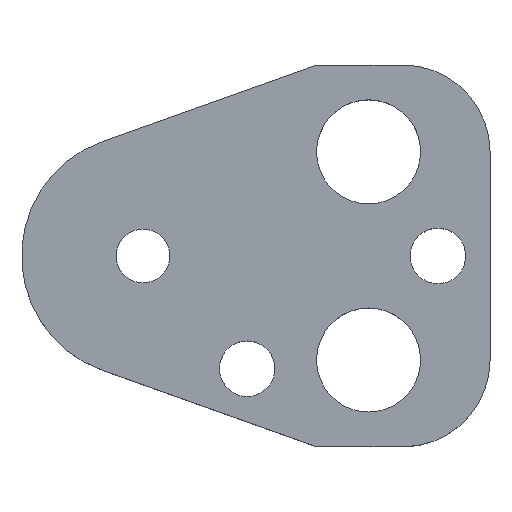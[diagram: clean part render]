
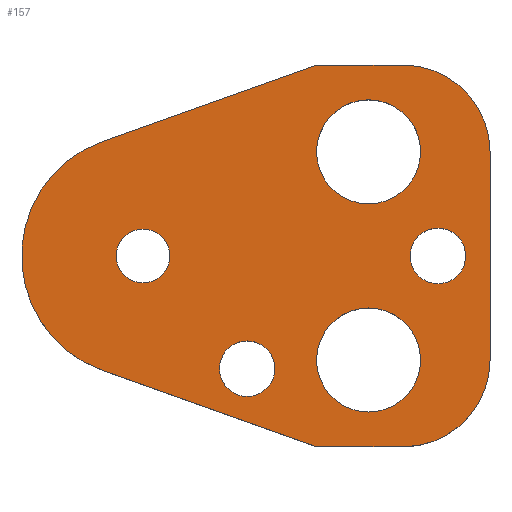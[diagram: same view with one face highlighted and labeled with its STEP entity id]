
A CAD part, top view. The second image highlights one B-rep face of the part: STEP entity #157.
In plain terms, the highlighted planar face has unit normal (0, 0, 1).
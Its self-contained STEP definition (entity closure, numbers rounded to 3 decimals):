
#103=FACE_BOUND('',#207,.T.);
#104=FACE_BOUND('',#208,.T.);
#105=FACE_BOUND('',#209,.T.);
#106=FACE_BOUND('',#210,.T.);
#107=FACE_BOUND('',#211,.T.);
#108=FACE_BOUND('',#212,.T.);
#122=CIRCLE('',#480,10.);
#124=CIRCLE('',#484,10.);
#127=CIRCLE('',#490,14.);
#138=CIRCLE('',#503,3.2);
#139=CIRCLE('',#504,3.2);
#140=CIRCLE('',#505,6.);
#141=CIRCLE('',#506,6.);
#142=CIRCLE('',#507,6.);
#143=CIRCLE('',#508,6.);
#144=CIRCLE('',#509,3.2);
#145=CIRCLE('',#510,3.2);
#146=CIRCLE('',#511,3.1);
#147=CIRCLE('',#512,3.1);
#157=ADVANCED_FACE('',(#103,#104,#105,#106,#107,#108),#174,.T.);
#174=PLANE('',#513);
#207=EDGE_LOOP('',(#273,#274,#275,#276,#277,#278,#279,#280));
#208=EDGE_LOOP('',(#281,#282));
#209=EDGE_LOOP('',(#283,#284));
#210=EDGE_LOOP('',(#285,#286));
#211=EDGE_LOOP('',(#287,#288));
#212=EDGE_LOOP('',(#289,#290));
#273=ORIENTED_EDGE('',*,*,#368,.T.);
#274=ORIENTED_EDGE('',*,*,#372,.T.);
#275=ORIENTED_EDGE('',*,*,#375,.T.);
#276=ORIENTED_EDGE('',*,*,#378,.T.);
#277=ORIENTED_EDGE('',*,*,#381,.T.);
#278=ORIENTED_EDGE('',*,*,#384,.T.);
#279=ORIENTED_EDGE('',*,*,#387,.T.);
#280=ORIENTED_EDGE('',*,*,#390,.T.);
#281=ORIENTED_EDGE('',*,*,#401,.T.);
#282=ORIENTED_EDGE('',*,*,#402,.T.);
#283=ORIENTED_EDGE('',*,*,#403,.T.);
#284=ORIENTED_EDGE('',*,*,#404,.T.);
#285=ORIENTED_EDGE('',*,*,#405,.T.);
#286=ORIENTED_EDGE('',*,*,#406,.T.);
#287=ORIENTED_EDGE('',*,*,#407,.T.);
#288=ORIENTED_EDGE('',*,*,#408,.T.);
#289=ORIENTED_EDGE('',*,*,#409,.T.);
#290=ORIENTED_EDGE('',*,*,#410,.T.);
#332=VERTEX_POINT('',#649);
#333=VERTEX_POINT('',#651);
#336=VERTEX_POINT('',#658);
#338=VERTEX_POINT('',#664);
#340=VERTEX_POINT('',#670);
#342=VERTEX_POINT('',#676);
#344=VERTEX_POINT('',#682);
#346=VERTEX_POINT('',#688);
#357=VERTEX_POINT('',#717);
#358=VERTEX_POINT('',#718);
#359=VERTEX_POINT('',#721);
#360=VERTEX_POINT('',#722);
#361=VERTEX_POINT('',#725);
#362=VERTEX_POINT('',#726);
#363=VERTEX_POINT('',#729);
#364=VERTEX_POINT('',#730);
#365=VERTEX_POINT('',#733);
#366=VERTEX_POINT('',#734);
#368=EDGE_CURVE('',#333,#332,#422,.T.);
#372=EDGE_CURVE('',#332,#336,#426,.T.);
#375=EDGE_CURVE('',#336,#338,#122,.T.);
#378=EDGE_CURVE('',#338,#340,#430,.T.);
#381=EDGE_CURVE('',#340,#342,#124,.T.);
#384=EDGE_CURVE('',#342,#344,#434,.T.);
#387=EDGE_CURVE('',#344,#346,#437,.T.);
#390=EDGE_CURVE('',#346,#333,#127,.T.);
#401=EDGE_CURVE('',#357,#358,#138,.T.);
#402=EDGE_CURVE('',#358,#357,#139,.T.);
#403=EDGE_CURVE('',#359,#360,#140,.T.);
#404=EDGE_CURVE('',#360,#359,#141,.T.);
#405=EDGE_CURVE('',#361,#362,#142,.T.);
#406=EDGE_CURVE('',#362,#361,#143,.T.);
#407=EDGE_CURVE('',#363,#364,#144,.T.);
#408=EDGE_CURVE('',#364,#363,#145,.T.);
#409=EDGE_CURVE('',#365,#366,#146,.T.);
#410=EDGE_CURVE('',#366,#365,#147,.T.);
#422=LINE('',#650,#450);
#426=LINE('',#659,#454);
#430=LINE('',#671,#458);
#434=LINE('',#683,#462);
#437=LINE('',#689,#465);
#450=VECTOR('',#527,1.);
#454=VECTOR('',#533,1.);
#458=VECTOR('',#545,1.);
#462=VECTOR('',#557,1.);
#465=VECTOR('',#562,1.);
#480=AXIS2_PLACEMENT_3D('',#665,#538,#539);
#484=AXIS2_PLACEMENT_3D('',#677,#550,#551);
#490=AXIS2_PLACEMENT_3D('',#693,#568,#569);
#503=AXIS2_PLACEMENT_3D('',#716,#594,#595);
#504=AXIS2_PLACEMENT_3D('',#719,#596,#597);
#505=AXIS2_PLACEMENT_3D('',#720,#598,#599);
#506=AXIS2_PLACEMENT_3D('',#723,#600,#601);
#507=AXIS2_PLACEMENT_3D('',#724,#602,#603);
#508=AXIS2_PLACEMENT_3D('',#727,#604,#605);
#509=AXIS2_PLACEMENT_3D('',#728,#606,#607);
#510=AXIS2_PLACEMENT_3D('',#731,#608,#609);
#511=AXIS2_PLACEMENT_3D('',#732,#610,#611);
#512=AXIS2_PLACEMENT_3D('',#735,#612,#613);
#513=AXIS2_PLACEMENT_3D('',#736,#614,#615);
#527=DIRECTION('',(0.942,-0.336,0.));
#533=DIRECTION('',(1.,0.,0.));
#538=DIRECTION('',(0.,0.,1.));
#539=DIRECTION('',(-0.707,0.707,0.));
#545=DIRECTION('',(0.,1.,0.));
#550=DIRECTION('',(0.,0.,1.));
#551=DIRECTION('',(-0.707,-0.707,0.));
#557=DIRECTION('',(-1.,0.,0.));
#562=DIRECTION('',(-0.942,-0.336,0.));
#568=DIRECTION('',(0.,0.,1.));
#569=DIRECTION('',(1.,0.,0.));
#594=DIRECTION('',(0.,0.,-1.));
#595=DIRECTION('',(-1.,0.,0.));
#596=DIRECTION('',(0.,0.,-1.));
#597=DIRECTION('',(1.,0.,0.));
#598=DIRECTION('',(0.,0.,-1.));
#599=DIRECTION('',(-1.,0.,0.));
#600=DIRECTION('',(0.,0.,-1.));
#601=DIRECTION('',(1.,0.,0.));
#602=DIRECTION('',(0.,0.,-1.));
#603=DIRECTION('',(-1.,0.,0.));
#604=DIRECTION('',(0.,0.,-1.));
#605=DIRECTION('',(1.,0.,0.));
#606=DIRECTION('',(0.,0.,-1.));
#607=DIRECTION('',(-1.,0.,0.));
#608=DIRECTION('',(0.,0.,-1.));
#609=DIRECTION('',(1.,0.,0.));
#610=DIRECTION('',(0.,0.,-1.));
#611=DIRECTION('',(-1.,0.,0.));
#612=DIRECTION('',(0.,0.,-1.));
#613=DIRECTION('',(1.,0.,0.));
#614=DIRECTION('',(0.,0.,1.));
#615=DIRECTION('',(0.942,-0.336,0.));
#649=CARTESIAN_POINT('',(20.,-22.,8.));
#650=CARTESIAN_POINT('',(20.,-22.,8.));
#651=CARTESIAN_POINT('',(-4.704,-13.186,8.));
#658=CARTESIAN_POINT('',(30.,-22.,8.));
#659=CARTESIAN_POINT('',(20.,-22.,8.));
#664=CARTESIAN_POINT('',(40.,-12.,8.));
#665=CARTESIAN_POINT('',(30.,-12.,8.));
#670=CARTESIAN_POINT('',(40.,12.,8.));
#671=CARTESIAN_POINT('',(40.,12.,8.));
#676=CARTESIAN_POINT('',(30.,22.,8.));
#677=CARTESIAN_POINT('',(30.,12.,8.));
#682=CARTESIAN_POINT('',(20.,22.,8.));
#683=CARTESIAN_POINT('',(20.,22.,8.));
#688=CARTESIAN_POINT('',(-4.704,13.186,8.));
#689=CARTESIAN_POINT('',(20.,22.,8.));
#693=CARTESIAN_POINT('',(0.,0.,8.));
#716=CARTESIAN_POINT('',(34.,0.,8.));
#717=CARTESIAN_POINT('',(34.,3.2,8.));
#718=CARTESIAN_POINT('',(34.,-3.2,8.));
#719=CARTESIAN_POINT('',(34.,0.,8.));
#720=CARTESIAN_POINT('',(26.,12.,8.));
#721=CARTESIAN_POINT('',(26.,18.,8.));
#722=CARTESIAN_POINT('',(26.,6.,8.));
#723=CARTESIAN_POINT('',(26.,12.,8.));
#724=CARTESIAN_POINT('',(26.,-12.,8.));
#725=CARTESIAN_POINT('',(26.,-6.,8.));
#726=CARTESIAN_POINT('',(26.,-18.,8.));
#727=CARTESIAN_POINT('',(26.,-12.,8.));
#728=CARTESIAN_POINT('',(12.,-13.,8.));
#729=CARTESIAN_POINT('',(12.,-9.8,8.));
#730=CARTESIAN_POINT('',(12.,-16.2,8.));
#731=CARTESIAN_POINT('',(12.,-13.,8.));
#732=CARTESIAN_POINT('',(0.,0.,8.));
#733=CARTESIAN_POINT('',(0.,3.1,8.));
#734=CARTESIAN_POINT('',(0.,-3.1,8.));
#735=CARTESIAN_POINT('',(0.,0.,8.));
#736=CARTESIAN_POINT('',(-4.704,-13.186,8.));
